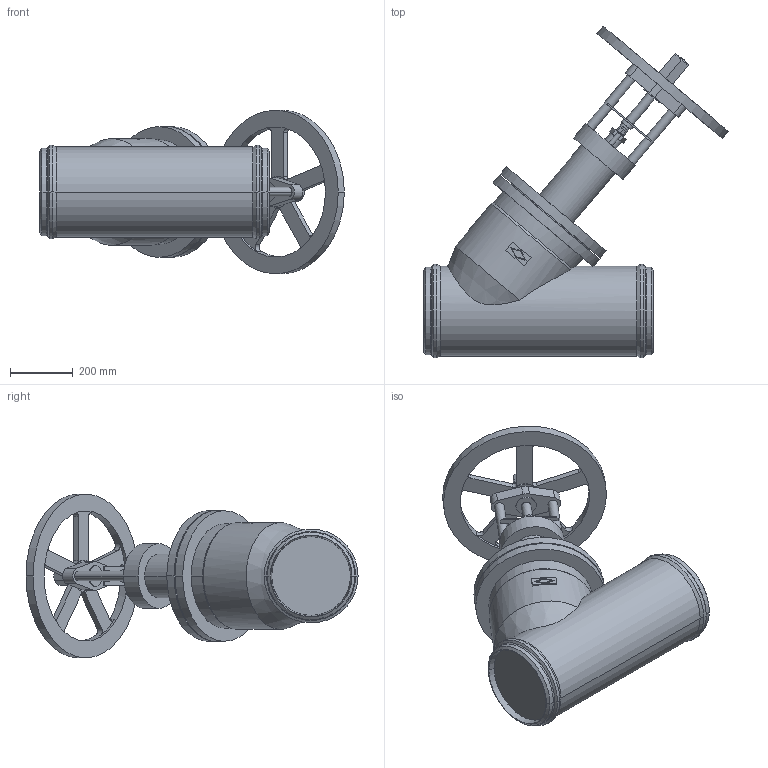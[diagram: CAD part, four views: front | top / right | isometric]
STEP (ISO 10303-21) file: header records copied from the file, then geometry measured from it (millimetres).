
FILE_DESCRIPTION(('Creo Elements/Direct Modeling STEP Export'),'2;1');
FILE_NAME('c000005029.stp','2012-09-20T12:08:53',(''),(''),'Creo Elements/Direct Modeling STEP processor for AP203 (Solid Model)','Creo Elements/Direct Modeling 17.0D 15-Jul-2011 (C) Parametric Technology GmbH','');
FILE_SCHEMA(('CONFIG_CONTROL_DESIGN'));
Length unit declared in the file: millimetre
Products named in the file (1): 1
Bounding box: 968.01 x 1054.82 x 520 mm (x, y, z)
Volume: 81719181.1 mm3; surface area: 2003660.9 mm2
Topology: 1 solids, 1 shells, 223 faces, 574 edges, 374 vertices
Faces by surface type: plane 112, cylinder 87, cone 20, torus 4
Entity records: 6752 total; most frequent: CARTESIAN_POINT 1321, ORIENTED_EDGE 1148, DIRECTION 1080, EDGE_CURVE 574, AXIS2_PLACEMENT_3D 377, VERTEX_POINT 374, VECTOR 326, LINE 326
